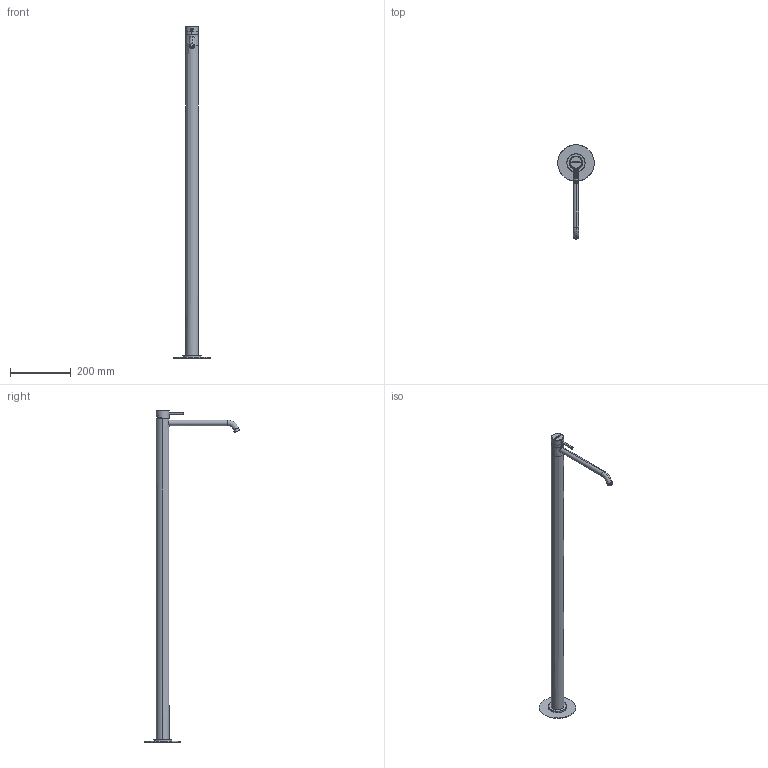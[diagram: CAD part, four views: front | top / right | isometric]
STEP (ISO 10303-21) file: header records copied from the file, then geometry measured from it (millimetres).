
FILE_DESCRIPTION(/* description */ (''),/* implementation_level */ '2;1');
FILE_NAME(/* name */ 'ST3052ACC',/* time_stamp */ '2024-02-26T10:52:21+01:00',/* author */ (''),/* organization */ (''),/* preprocessor_version */ 'ST-DEVELOPER v16.5',/* originating_system */ 'Rhino 7.36',/* authorisation */ '');
FILE_SCHEMA (('CONFIG_CONTROL_DESIGN'));
Length unit declared in the file: millimetre
Products named in the file (1): Document
Bounding box: 119.87 x 312.94 x 1092.3 mm (x, y, z)
Volume: 62495.9 mm3; surface area: 192724.6 mm2
Topology: 11 solids, 81 shells, 526 faces, 1662 edges, 1231 vertices
Faces by surface type: plane 325, cylinder 141, bspline 60
Entity records: 20122 total; most frequent: CARTESIAN_POINT 10095, ORIENTED_EDGE 2560, EDGE_CURVE 1660, B_SPLINE_CURVE_WITH_KNOTS 1284, VERTEX_POINT 1230, EDGE_LOOP 553, ADVANCED_FACE 525, FACE_OUTER_BOUND 525
